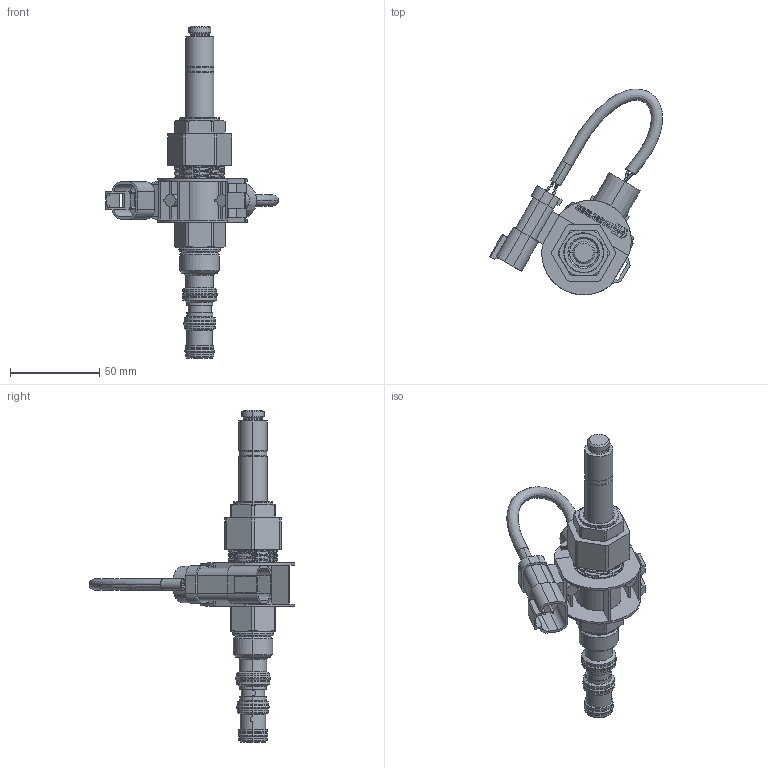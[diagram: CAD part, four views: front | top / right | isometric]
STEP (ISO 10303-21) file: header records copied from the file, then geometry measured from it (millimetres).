
FILE_DESCRIPTION((''),'2;1');
FILE_NAME('ASM0002_ASM','2021-06-24T13:51:55',('CY1'),(''),'CREO PARAMETRIC BY PTC INC, 2018020','CREO PARAMETRIC BY PTC INC, 2018020','');
FILE_SCHEMA(('CONFIG_CONTROL_DESIGN'));
Products named in the file (3): SV10-P40; PRT0005; ASM0002_ASM
Assembly tree (2 placements, depth 2):
  ASM0002_ASM
    SV10-P40
    PRT0005
Bounding box: 97 x 115.46 x 186.16 mm (x, y, z)
Volume: 102134.3 mm3; surface area: 44560.7 mm2
Topology: 2 solids, 2 shells, 961 faces, 2677 edges, 1735 vertices
Faces by surface type: plane 416, cylinder 281, cone 74, bspline 66, extrusion 64, torus 40, revolution 12, sphere 8
Entity records: 41564 total; most frequent: CARTESIAN_POINT 17942, ORIENTED_EDGE 5328, DIRECTION 4197, EDGE_CURVE 2664, VERTEX_POINT 1733, VECTOR 1439, LINE 1375, AXIS2_PLACEMENT_3D 1373
